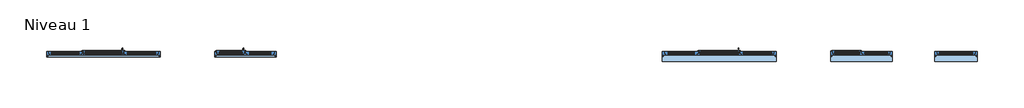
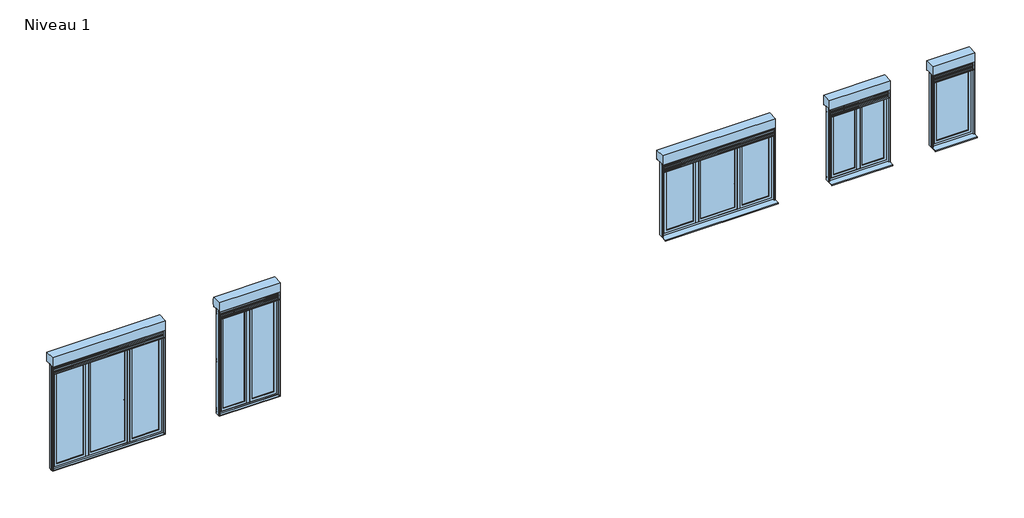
# One storey: 5 windows.
"""IFC4 building model written with IfcOpenShell, lengths in millimetres."""

from ifc_helpers import new_model, si_unit, origin, place, context, project, spatial, transform, mapped, element, save
from components import window_5d41eee4, window_cf888731, window_ddca230f, window_10f17370, window_3_fixe_pvc_f0c6ea6f

model = new_model("IFC4")

# Units and contexts
model_context = context("Model", 3, world=origin())
ifc_project = project(units=[si_unit("LENGTHUNIT", "METRE", prefix="MILLI")], contexts=[model_context])

# Site, building, storey
site = spatial("IfcSite", under=ifc_project)
building = spatial("IfcBuilding", under=site)
storey = spatial("IfcBuildingStorey", under=building, Name="Niveau 1", Elevation=3000.0)

# Windows
placement = place(None, origin())
window_shape = window_5d41eee4(model_context)
element("IfcWindow", 1, ObjectType="5. OF1 + Fixe à G ENR PVC-ALU : 260X165 (LXH) cm", at=placement, inside=storey, context=model_context, shape_type="MappedRepresentation", body=[
    mapped(window_shape, transform((-3375.5995417, 52.7570743, 2910.0), x_axis=(-1.0, 0.0, 0.0), y_axis=(0.0, -1.0, 0.0), z_axis=(0.0, 0.0, 1.0))),
])
window_2_shape = window_cf888731(model_context)
element("IfcWindow", 2, ObjectType="8. OF1 + 2 Fixes à G et à D PVC-ALU : 240X165 (LXH) cm", at=placement, inside=storey, context=model_context, shape_type="MappedRepresentation", body=[
    mapped(window_2_shape, transform((-6375.5995417, 52.7570743, 2910.0), x_axis=(-1.0, 0.0, 0.0), y_axis=(0.0, -1.0, 0.0), z_axis=(0.0, 0.0, 1.0))),
])
window_3_shape = window_ddca230f(model_context)
element("IfcWindow", 3, ObjectType="23. PF1 + Fixe à G ENR PVC-ALU : 260X236 (LXH) cm", at=placement, inside=storey, context=model_context, shape_type="MappedRepresentation", body=[
    mapped(window_3_shape, transform((-16375.5995417, 52.7570743, 3000.0), x_axis=(-1.0, 0.0, 0.0), y_axis=(0.0, -1.0, 0.0), z_axis=(0.0, 0.0, 1.0))),
])
window_4_shape = window_10f17370(model_context)
element("IfcWindow", 4, ObjectType="25. PF1 + Fixe à G et à D ENR PVC-ALU : PF3  260X236 (LXH) cm", at=placement, inside=storey, context=model_context, shape_type="MappedRepresentation", body=[
    mapped(window_4_shape, transform((-19375.5995417, 52.7570743, 3000.0), x_axis=(-1.0, 0.0, 0.0), y_axis=(0.0, -1.0, 0.0), z_axis=(0.0, 0.0, 1.0))),
])
window_3_fixe_pvc_shape = window_3_fixe_pvc_f0c6ea6f(model_context)
element("IfcWindow", 5, ObjectType="3. Fixe PVC : 90X165 (LXH) cm", at=placement, inside=storey, context=model_context, shape_type="MappedRepresentation", body=[
    mapped(window_3_fixe_pvc_shape, transform((-1375.5995417, 52.7570743, 2910.0), x_axis=(-1.0, 0.0, 0.0), y_axis=(0.0, -1.0, 0.0), z_axis=(0.0, 0.0, 1.0))),
])

save(model, "model.ifc")
